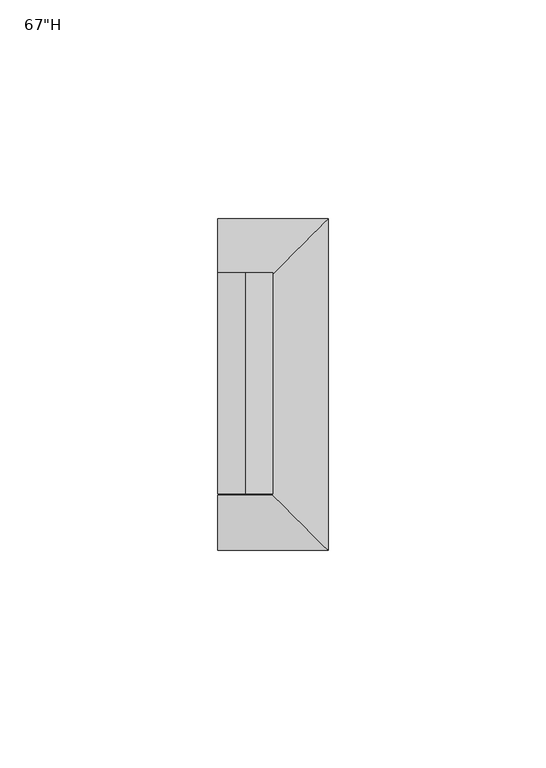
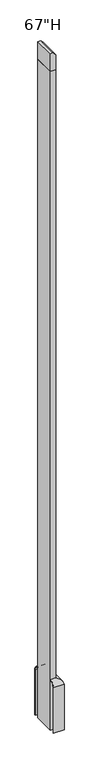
"""IFC4 building model written with IfcOpenShell, lengths in millimetres: furniture geometry."""

from ifc_helpers import new_model, si_unit, frame, origin, place, context, project, spatial, polyline, circle_curve, ellipse_curve, outline, extrude, source, transform, mapped, element, save
from ifc_brep_helpers import plane_surface, cylinder_surface, revolved_surface, advanced_brep


def furniture_5c2546f9(model_context):
    return source(origin(), model_context, "Body", "SolidModel", [
        extrude(outline(polyline([(1666.875, 1984.8560512), (1666.875, 1997.5560512), (1704.975, 1997.5560512), (1711.325, 1991.2060512), (1711.325, 1984.8560512), (1666.875, 1984.8560512)])), frame((0.0, -2474.1387877, 0.0), z_axis=(0.0, 1.0, 0.0), x_axis=(0.0, 0.0, 1.0)), (0.0, 0.0, 1.0), 50.8),
        advanced_brep(
        [(1984.8560512, -2410.6387877, 123.825), (1984.8560512, -2410.6387877, 9.525), (1984.8560512, -2412.2262877, 9.525), (1984.8560512, -2412.2262877, 123.825), (1984.8560512, -2423.3387877, 134.9375), (1984.8560512, -2423.3387877, 136.525), (2010.2560512, -2410.6387877, 123.825), (2010.2560512, -2410.6387877, 9.525), (2010.2560512, -2486.8387877, 9.525), (1984.8560512, -2486.8387877, 9.525), (1984.8560512, -2485.2512877, 9.525), (2008.6685512, -2485.2512877, 9.525), (2008.6685512, -2412.2262877, 9.525), (2008.6685512, -2412.2262877, 123.825), (1997.5560512, -2423.3387877, 134.9375), (1997.5560512, -2423.3387877, 136.525), (2010.2560512, -2486.8387877, 123.825), (2008.6685512, -2485.2512877, 123.825), (1997.5560512, -2474.1387877, 134.9375), (1997.5560512, -2474.1387877, 136.525), (1984.8560512, -2486.8387877, 123.825), (1984.8560512, -2474.1387877, 136.525), (1984.8560512, -2474.1387877, 134.9375), (1984.8560512, -2485.2512877, 123.825)],
        [
            (0, 1),
            (1, 2),
            (2, 3),
            (3, 4, circle_curve(frame((1984.8560512, -2423.3387877, 123.825), z_axis=(1.0, 0.0, 0.0), x_axis=(0.0, 1.0, 0.0)), 11.1125)),
            (4, 5),
            (5, 0, circle_curve(frame((1984.8560512, -2423.3387877, 123.825), z_axis=(-1.0, 0.0, 0.0), x_axis=(0.0, 1.0, 0.0)), 12.7)),
            (0, 6),
            (6, 7),
            (7, 1),
            (7, 8),
            (8, 9),
            (9, 10),
            (10, 11),
            (11, 12),
            (12, 2),
            (12, 13),
            (13, 3),
            (13, 14, ellipse_curve(frame((1997.5560512, -2423.3387877, 123.825), z_axis=(0.7071067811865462, -0.7071067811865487, 0.0), x_axis=(0.7071067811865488, 0.7071067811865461, 0.0)), 15.7154482, 11.1125)),
            (14, 4),
            (14, 15),
            (15, 5),
            (15, 6, ellipse_curve(frame((1997.5560512, -2423.3387877, 123.825), z_axis=(-0.7071067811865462, 0.7071067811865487, 0.0), x_axis=(-0.7071067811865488, -0.7071067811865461, 0.0)), 17.9605122, 12.7)),
            (6, 16),
            (16, 8),
            (11, 17),
            (17, 13),
            (17, 18, ellipse_curve(frame((1997.5560512, -2474.1387877, 123.825), z_axis=(-0.7071067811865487, -0.7071067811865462, 0.0), x_axis=(0.7071067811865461, -0.7071067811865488, 0.0)), 15.7154482, 11.1125)),
            (18, 14),
            (18, 19),
            (19, 15),
            (19, 16, ellipse_curve(frame((1997.5560512, -2474.1387877, 123.825), z_axis=(0.7071067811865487, 0.7071067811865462, 0.0), x_axis=(-0.7071067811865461, 0.7071067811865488, 0.0)), 17.9605122, 12.7)),
            (20, 21, circle_curve(frame((1984.8560512, -2474.1387877, 123.825), z_axis=(-1.0, 0.0, 0.0), x_axis=(0.0, -1.0, 0.0)), 12.7)),
            (21, 22),
            (22, 23, circle_curve(frame((1984.8560512, -2474.1387877, 123.825), z_axis=(1.0, 0.0, 0.0), x_axis=(0.0, -1.0, 0.0)), 11.1125)),
            (23, 10),
            (9, 20),
            (16, 20),
            (23, 17),
            (22, 18),
            (21, 19),
        ],
        [
            plane_surface(frame((1984.8560512, -2423.3387877, 136.525), z_axis=(-1.0, 0.0, 0.0), x_axis=(0.0, 0.0, 1.0))),
            plane_surface(frame((1984.8560512, -2410.6387877, 123.825), z_axis=(0.0, 1.0, 0.0), x_axis=(1.0, 0.0, 0.0))),
            plane_surface(frame((1984.8560512, -2410.6387877, 9.525), z_axis=(0.0, 0.0, -1.0), x_axis=(1.0, 0.0, 0.0))),
            plane_surface(frame((1984.8560512, -2412.2262877, 9.525), z_axis=(0.0, -1.0, 0.0), x_axis=(1.0, 0.0, 0.0))),
            revolved_surface(polyline([(2008.6685512, -2412.2262877, 123.825), (1984.8560512, -2412.2262877, 123.825)]), (1984.8560512, -2423.3387877, 123.825), (1.0, 0.0, 0.0)),
            plane_surface(frame((1984.8560512, -2423.3387877, 134.9375), z_axis=(0.0, -1.0, 0.0), x_axis=(1.0, 0.0, 0.0))),
            cylinder_surface(frame((1984.8560512, -2423.3387877, 123.825), z_axis=(-1.0, 0.0, 0.0), x_axis=(0.0, 1.0, 0.0)), 12.7),
            plane_surface(frame((2010.2560512, -2410.6387877, 123.825), z_axis=(1.0, 0.0, 0.0), x_axis=(0.0, -1.0, 0.0))),
            plane_surface(frame((2008.6685512, -2412.2262877, 9.525), z_axis=(-1.0, 0.0, 0.0), x_axis=(0.0, -1.0, 0.0))),
            revolved_surface(polyline([(2008.6685512, -2485.2512877, 123.825), (2008.6685512, -2412.2262877, 123.825)]), (1997.5560512, -2423.3387877, 123.825), (0.0, -1.0, 0.0)),
            plane_surface(frame((1997.5560512, -2423.3387877, 134.9375), z_axis=(-1.0, 0.0, 0.0), x_axis=(0.0, -1.0, 0.0))),
            cylinder_surface(frame((1997.5560512, -2423.3387877, 123.825), z_axis=(0.0, 1.0, 0.0), x_axis=(1.0, 0.0, 0.0)), 12.7),
            plane_surface(frame((1984.8560512, -2474.1387877, 136.525), z_axis=(-1.0, 0.0, 0.0), x_axis=(0.0, 0.0, 1.0))),
            plane_surface(frame((2010.2560512, -2486.8387877, 123.825), z_axis=(0.0, -1.0, 0.0), x_axis=(-1.0, 0.0, 0.0))),
            plane_surface(frame((2008.6685512, -2485.2512877, 9.525), z_axis=(0.0, 1.0, 0.0), x_axis=(-1.0, 0.0, 0.0))),
            revolved_surface(polyline([(1984.8560512, -2485.2512877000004, 123.825), (2008.6685512, -2485.2512877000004, 123.825)]), (1997.5560512, -2474.1387877, 123.825), (-1.0, 0.0, 0.0)),
            plane_surface(frame((1997.5560512, -2474.1387877, 134.9375), z_axis=(0.0, 1.0, 0.0), x_axis=(-1.0, 0.0, 0.0))),
            cylinder_surface(frame((1997.5560512, -2474.1387877, 123.825), z_axis=(1.0, 0.0, 0.0), x_axis=(0.0, -1.0, 0.0)), 12.7),
        ],
        [
            (0, [[1, 2, 3, 4, 5, 6]]),
            (1, [[-1, 7, 8, 9]]),
            (2, [[-2, -9, 10, 11, 12, 13, 14, 15]]),
            (3, [[-3, -15, 16, 17]]),
            (4, [[-4, -17, 18, 19]]),
            (5, [[-5, -19, 20, 21]]),
            (6, [[-6, -21, 22, -7]]),
            (7, [[-8, 23, 24, -10]]),
            (8, [[-16, -14, 25, 26]]),
            (9, [[-18, -26, 27, 28]]),
            (10, [[-20, -28, 29, 30]]),
            (11, [[-22, -30, 31, -23]]),
            (12, [[32, 33, 34, 35, -12, 36]]),
            (13, [[-24, 37, -36, -11]]),
            (14, [[-25, -13, -35, 38]]),
            (15, [[-27, -38, -34, 39]]),
            (16, [[-29, -39, -33, 40]]),
            (17, [[-31, -40, -32, -37]]),
        ],
    ),
        extrude(outline(polyline([(1984.8560512, -2474.1387877), (1984.8560512, -2423.3387877), (1997.5560512, -2423.3387877), (1997.5560512, -2474.1387877), (1984.8560512, -2474.1387877)])), frame((0.0, 0.0, 9.525), z_axis=(0.0, 0.0, 1.0), x_axis=(1.0, 0.0, 0.0)), (0.0, 0.0, 1.0), 1657.35),
    ])


if __name__ == "__main__":
    model = new_model("IFC4")
    model_context = context("Model", 3, world=origin())
    ifc_project = project(units=[si_unit("LENGTHUNIT", "METRE", prefix="MILLI")], contexts=[model_context])
    site = spatial("IfcSite", under=ifc_project)
    building = spatial("IfcBuilding", under=site)
    placement = place(None, origin())
    furniture_shape = furniture_5c2546f9(model_context)
    element("IfcFurniture", 1, ObjectType="HermanMiller_ActionOffice_A1271_FinishedEndStandardBase : 67\"H", at=placement, inside=building, context=model_context, shape_type="MappedRepresentation", body=[
        mapped(furniture_shape, transform((0.0, 0.0, 0.0), x_axis=(1.0, 0.0, 0.0), y_axis=(0.0, 1.0, 0.0), z_axis=(0.0, 0.0, 1.0))),
    ])
    save(model, "model.ifc")
